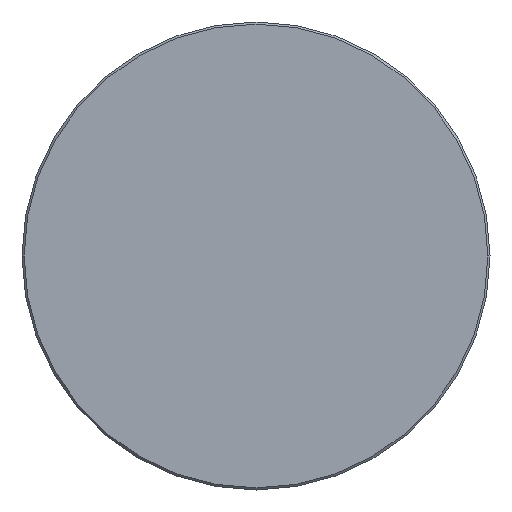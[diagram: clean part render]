
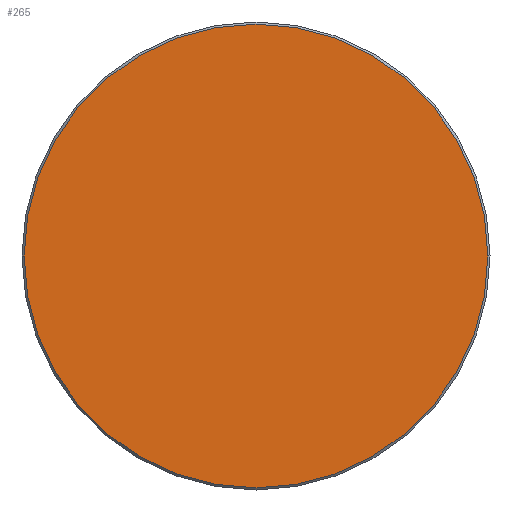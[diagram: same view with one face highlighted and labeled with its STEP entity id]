
A CAD part, left-side view. The second image highlights one B-rep face of the part: STEP entity #265.
In plain terms, the highlighted planar face has unit normal (-1, 0, 0).
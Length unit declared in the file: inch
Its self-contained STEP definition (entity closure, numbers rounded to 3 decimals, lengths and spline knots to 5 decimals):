
#17 = CARTESIAN_POINT ( 'NONE',  ( 0., 0., 0. ) ) ;
#48 = FACE_OUTER_BOUND ( 'NONE', #198, .T. ) ;
#51 = VERTEX_POINT ( 'NONE', #175 ) ;
#53 = AXIS2_PLACEMENT_3D ( 'NONE', #17, #219, #95 ) ;
#57 = CIRCLE ( 'NONE', #206, 0.4335 ) ;
#95 = DIRECTION ( 'NONE',  ( 0., -1., 0. ) ) ;
#105 = DIRECTION ( 'NONE',  ( -1., 0., 0. ) ) ;
#149 = VERTEX_POINT ( 'NONE', #188 ) ;
#157 = EDGE_CURVE ( 'NONE', #149, #51, #169, .T. ) ;
#169 = CIRCLE ( 'NONE', #367, 0.4335 ) ;
#171 = DIRECTION ( 'NONE',  ( 0., -1., 0. ) ) ;
#175 = CARTESIAN_POINT ( 'NONE',  ( 0., -0.4335, 0. ) ) ;
#188 = CARTESIAN_POINT ( 'NONE',  ( 0., 0.4335, 0. ) ) ;
#193 = ORIENTED_EDGE ( 'NONE', *, *, #157, .T. ) ;
#198 = EDGE_LOOP ( 'NONE', ( #193, #380 ) ) ;
#206 = AXIS2_PLACEMENT_3D ( 'NONE', #288, #105, #171 ) ;
#219 = DIRECTION ( 'NONE',  ( -1., 0., 0. ) ) ;
#265 = ADVANCED_FACE ( 'NONE', ( #48 ), #335, .T. ) ;
#288 = CARTESIAN_POINT ( 'NONE',  ( 0., 0., 0. ) ) ;
#333 = EDGE_CURVE ( 'NONE', #51, #149, #57, .T. ) ;
#335 = PLANE ( 'NONE',  #53 ) ;
#336 = CARTESIAN_POINT ( 'NONE',  ( 0., 0., 0. ) ) ;
#338 = DIRECTION ( 'NONE',  ( -1., 0., 0. ) ) ;
#367 = AXIS2_PLACEMENT_3D ( 'NONE', #336, #338, #368 ) ;
#368 = DIRECTION ( 'NONE',  ( 0., -1., 0. ) ) ;
#380 = ORIENTED_EDGE ( 'NONE', *, *, #333, .T. ) ;
